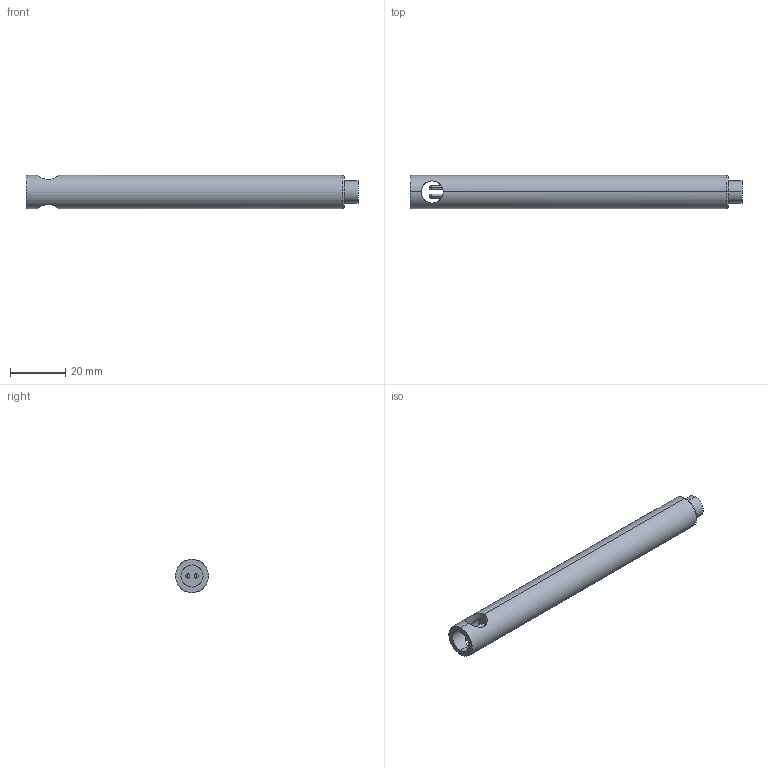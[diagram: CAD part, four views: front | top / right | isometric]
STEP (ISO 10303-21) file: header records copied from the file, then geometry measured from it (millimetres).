
FILE_DESCRIPTION (( 'STEP AP203' ), '1' );
FILE_NAME ('F4.3.step', '2023-09-06T12:16:15', ( '' ), ( '' ), 'SwSTEP 2.0', 'SolidWorks 2022', '' );
FILE_SCHEMA (( 'CONFIG_CONTROL_DESIGN' ));
Length unit declared in the file: millimetre
Products named in the file (1): F4.3
Bounding box: 120 x 12 x 12 mm (x, y, z)
Volume: 12396.2 mm3; surface area: 4960 mm2
Topology: 1 solids, 1 shells, 26 faces, 66 edges, 38 vertices
Faces by surface type: cylinder 16, sphere 4, plane 4, torus 2
Entity records: 939 total; most frequent: CARTESIAN_POINT 287, DIRECTION 128, ORIENTED_EDGE 116, EDGE_CURVE 58, AXIS2_PLACEMENT_3D 55, VERTEX_POINT 34, EDGE_LOOP 30, CIRCLE 28
